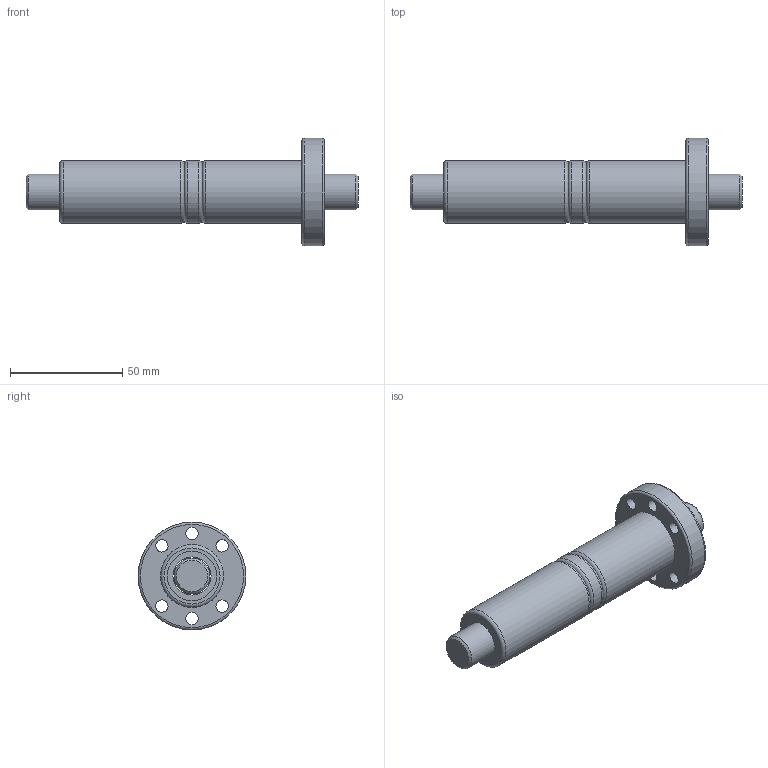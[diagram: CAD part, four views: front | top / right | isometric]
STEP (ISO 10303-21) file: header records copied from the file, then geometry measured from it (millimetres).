
FILE_DESCRIPTION(/* description */ (''),/* implementation_level */ '2;1');
FILE_NAME(/* name */ 'DFU1610',/* time_stamp */ '2007-10-26T10:52:35+08:00',/* author */ (''),/* organization */ (''),/* preprocessor_version */ 'ST-DEVELOPER v9',/* originating_system */ 'EDS PLM SOLUTIONS - UNIGRAPHICS NX 1.0',/* authorisation */ '');
FILE_SCHEMA (('CONFIG_CONTROL_DESIGN'));
Length unit declared in the file: millimetre
Products named in the file (1): FANNDA0400cl
Bounding box: 148 x 48 x 48 mm (x, y, z)
Volume: 85825.2 mm3; surface area: 32000.1 mm2
Topology: 6 solids, 6 shells, 44 faces, 83 edges, 54 vertices
Faces by surface type: cylinder 20, plane 15, torus 7, cone 2
Full cylindrical faces by diameter (mm): 5.5 x6, 16 x1, 17 x5, 22 x4, 28 x3, 48 x1
Entity records: 1054 total; most frequent: DIRECTION 188, CARTESIAN_POINT 143, EDGE_LOOP 98, ORIENTED_EDGE 98, AXIS2_PLACEMENT_3D 94, FACE_BOUND 81, VERTEX_POINT 49, EDGE_CURVE 49
